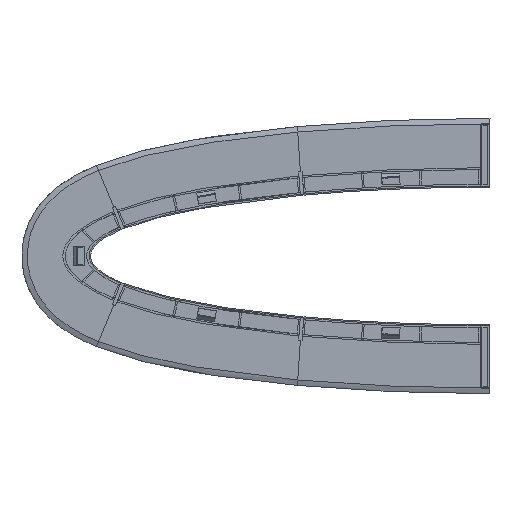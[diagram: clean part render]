
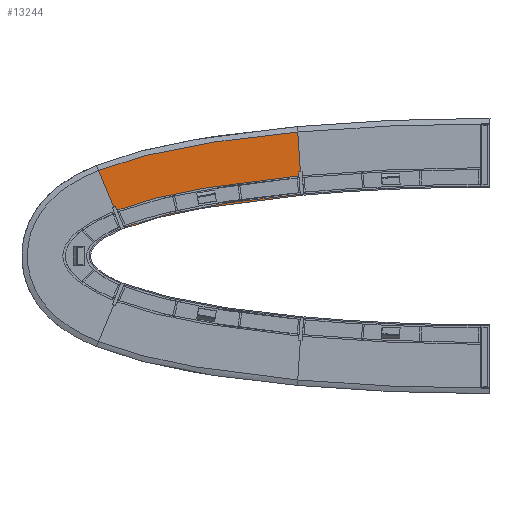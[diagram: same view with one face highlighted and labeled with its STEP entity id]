
A CAD part, front view. The second image highlights one B-rep face of the part: STEP entity #13244.
In plain terms, the highlighted planar face has unit normal (0, -1, 0).
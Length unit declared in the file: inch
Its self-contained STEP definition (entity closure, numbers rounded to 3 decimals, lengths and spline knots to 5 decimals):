
#2951=FACE_BOUND('',#4131,.T.);
#3050=ELLIPSE('',#15600,174.,30.);
#3185=B_SPLINE_CURVE_WITH_KNOTS('',3,(#28124,#28125,#28126,#28127,#28128,
#28129,#28130,#28131,#28132,#28133,#28134,#28135,#28136,#28137,#28138,#28139,
#28140,#28141,#28142,#28143,#28144,#28145,#28146,#28147,#28148,#28149,#28150,
#28151,#28152,#28153,#28154,#28155,#28156,#28157,#28158,#28159,#28160,#28161,
#28162,#28163,#28164,#28165,#28166,#28167),.UNSPECIFIED.,.F.,.F.,(4,1,1,
1,1,1,1,1,1,1,1,1,1,1,1,1,1,1,1,1,1,1,1,1,1,1,1,1,1,1,1,1,1,1,1,1,1,1,1,
1,1,4),(6.68452,6.68938,6.7022,6.70858,
6.72134,6.72772,6.74037,6.74664,6.75918,
6.76545,6.77784,6.78397,6.79622,6.80235,
6.82042,6.83235,6.8559,6.86752,6.89043,
6.90172,6.924,6.93499,6.95668,6.96737,
6.9885,6.99893,7.01952,7.0297,7.04981,
7.05975,7.07941,7.08913,7.10837,7.11789,
7.13674,7.14607,7.16456,7.17372,7.19188,
7.20088,7.21873,7.36807),.UNSPECIFIED.);
#3499=FACE_OUTER_BOUND('',#4130,.T.);
#4130=EDGE_LOOP('',(#10100,#10101,#10102,#10103));
#4131=EDGE_LOOP('',(#10104,#10105,#10106,#10107));
#4942=LINE('',#27867,#6063);
#4946=LINE('',#27875,#6067);
#4949=LINE('',#27881,#6070);
#4952=LINE('',#27886,#6073);
#4956=LINE('',#28339,#6077);
#4961=LINE('',#28348,#6082);
#6063=VECTOR('',#18346,0.3937);
#6067=VECTOR('',#18352,0.3937);
#6070=VECTOR('',#18357,0.3937);
#6073=VECTOR('',#18362,0.3937);
#6077=VECTOR('',#18368,0.3937);
#6082=VECTOR('',#18375,0.3937);
#7122=VERTEX_POINT('',#27865);
#7123=VERTEX_POINT('',#27866);
#7126=VERTEX_POINT('',#27874);
#7128=VERTEX_POINT('',#27880);
#7130=VERTEX_POINT('',#28064);
#7133=VERTEX_POINT('',#28117);
#7136=VERTEX_POINT('',#28338);
#7139=VERTEX_POINT('',#28346);
#8187=EDGE_CURVE('',#7122,#7123,#4942,.T.);
#8191=EDGE_CURVE('',#7123,#7126,#4946,.T.);
#8194=EDGE_CURVE('',#7126,#7128,#4949,.T.);
#8197=EDGE_CURVE('',#7128,#7122,#4952,.T.);
#8202=EDGE_CURVE('',#7133,#7130,#3185,.T.);
#8206=EDGE_CURVE('',#7130,#7136,#4956,.T.);
#8211=EDGE_CURVE('',#7139,#7133,#4961,.T.);
#8212=EDGE_CURVE('',#7136,#7139,#3050,.T.);
#10100=ORIENTED_EDGE('',*,*,#8202,.F.);
#10101=ORIENTED_EDGE('',*,*,#8211,.F.);
#10102=ORIENTED_EDGE('',*,*,#8212,.F.);
#10103=ORIENTED_EDGE('',*,*,#8206,.F.);
#10104=ORIENTED_EDGE('',*,*,#8194,.T.);
#10105=ORIENTED_EDGE('',*,*,#8197,.T.);
#10106=ORIENTED_EDGE('',*,*,#8187,.T.);
#10107=ORIENTED_EDGE('',*,*,#8191,.T.);
#11887=PLANE('',#15603);
#13244=ADVANCED_FACE('',(#3499,#2951),#11887,.F.);
#15600=AXIS2_PLACEMENT_3D('',#28355,#18376,#18377);
#15603=AXIS2_PLACEMENT_3D('',#28358,#18382,#18383);
#18346=DIRECTION('',(0.986,0.,0.169));
#18352=DIRECTION('',(0.169,0.,-0.986));
#18357=DIRECTION('',(-0.986,0.,-0.169));
#18362=DIRECTION('',(-0.169,0.,0.986));
#18368=DIRECTION('',(0.067,0.,-0.998));
#18375=DIRECTION('',(-0.383,0.,0.924));
#18376=DIRECTION('center_axis',(0.,-1.,0.));
#18377=DIRECTION('ref_axis',(1.,0.,0.));
#18382=DIRECTION('center_axis',(0.,1.,0.));
#18383=DIRECTION('ref_axis',(0.,0.,1.));
#27865=CARTESIAN_POINT('',(76.20027,0.,-32.5865));
#27866=CARTESIAN_POINT('',(83.96162,0.,-31.25338));
#27867=CARTESIAN_POINT('',(81.17166,0.,-31.7326));
#27874=CARTESIAN_POINT('',(84.78688,0.,-36.05802));
#27875=CARTESIAN_POINT('',(83.83222,0.,-30.50004));
#27880=CARTESIAN_POINT('',(77.02554,0.,-37.39114));
#27881=CARTESIAN_POINT('',(78.11626,0.,-37.2038));
#27886=CARTESIAN_POINT('',(75.65825,0.,-29.43084));
#28064=CARTESIAN_POINT('',(120.237,0.,-5.99025));
#28117=CARTESIAN_POINT('',(33.43915,0.,-22.71398));
#28124=CARTESIAN_POINT('Ctrl Pts',(33.43915,0.,-22.71398));
#28125=CARTESIAN_POINT('Ctrl Pts',(33.58925,0.,-22.653));
#28126=CARTESIAN_POINT('Ctrl Pts',(34.13678,0.,-22.43205));
#28127=CARTESIAN_POINT('Ctrl Pts',(34.88723,0.,-22.13651));
#28128=CARTESIAN_POINT('Ctrl Pts',(35.89247,0.,-21.7507));
#28129=CARTESIAN_POINT('Ctrl Pts',(36.70177,0.,-21.44791));
#28130=CARTESIAN_POINT('Ctrl Pts',(37.71848,0.,-21.07687));
#28131=CARTESIAN_POINT('Ctrl Pts',(38.5345,0.,-20.78629));
#28132=CARTESIAN_POINT('Ctrl Pts',(39.55806,0.,-20.43038));
#28133=CARTESIAN_POINT('Ctrl Pts',(40.38118,0.,-20.15084));
#28134=CARTESIAN_POINT('Ctrl Pts',(41.41461,0.,-19.80787));
#28135=CARTESIAN_POINT('Ctrl Pts',(42.24302,0.,-19.53912));
#28136=CARTESIAN_POINT('Ctrl Pts',(43.28067,0.,-19.20986));
#28137=CARTESIAN_POINT('Ctrl Pts',(44.11435,0.,-18.95104));
#28138=CARTESIAN_POINT('Ctrl Pts',(45.36539,0.,-18.57089));
#28139=CARTESIAN_POINT('Ctrl Pts',(46.62037,0.,-18.20012));
#28140=CARTESIAN_POINT('Ctrl Pts',(48.50849,0.,-17.66099));
#28141=CARTESIAN_POINT('Ctrl Pts',(50.19848,0.,-17.19729));
#28142=CARTESIAN_POINT('Ctrl Pts',(52.31865,0.,-16.63757));
#28143=CARTESIAN_POINT('Ctrl Pts',(54.01984,0.,-16.20501));
#28144=CARTESIAN_POINT('Ctrl Pts',(56.15241,0.,-15.68217));
#28145=CARTESIAN_POINT('Ctrl Pts',(57.86232,0.,-15.2776));
#28146=CARTESIAN_POINT('Ctrl Pts',(60.00459,0.,-14.788));
#28147=CARTESIAN_POINT('Ctrl Pts',(61.72137,0.,-14.40873));
#28148=CARTESIAN_POINT('Ctrl Pts',(63.87131,0.,-13.94926));
#28149=CARTESIAN_POINT('Ctrl Pts',(65.59358,0.,-13.59296));
#28150=CARTESIAN_POINT('Ctrl Pts',(67.74966,0.,-13.16094));
#28151=CARTESIAN_POINT('Ctrl Pts',(69.47636,0.,-12.82563));
#28152=CARTESIAN_POINT('Ctrl Pts',(71.63741,0.,-12.41874));
#28153=CARTESIAN_POINT('Ctrl Pts',(73.36771,0.,-12.10271));
#28154=CARTESIAN_POINT('Ctrl Pts',(75.53283,0.,-11.71897));
#28155=CARTESIAN_POINT('Ctrl Pts',(77.2661,0.,-11.42073));
#28156=CARTESIAN_POINT('Ctrl Pts',(79.43457,0.,-11.05841));
#28157=CARTESIAN_POINT('Ctrl Pts',(81.17031,0.,-10.77668));
#28158=CARTESIAN_POINT('Ctrl Pts',(83.34158,0.,-10.43428));
#28159=CARTESIAN_POINT('Ctrl Pts',(85.07937,0.,-10.16794));
#28160=CARTESIAN_POINT('Ctrl Pts',(87.25299,0.,-9.84414));
#28161=CARTESIAN_POINT('Ctrl Pts',(88.99252,0.,-9.59221));
#28162=CARTESIAN_POINT('Ctrl Pts',(91.16811,0.,-9.28586));
#28163=CARTESIAN_POINT('Ctrl Pts',(92.9091,0.,-9.04748));
#28164=CARTESIAN_POINT('Ctrl Pts',(95.08638,0.,-8.75758));
#28165=CARTESIAN_POINT('Ctrl Pts',(103.68375,0.,-7.6443));
#28166=CARTESIAN_POINT('Ctrl Pts',(112.27881,0.,-6.71492));
#28167=CARTESIAN_POINT('Ctrl Pts',(120.237,0.,-5.99025));
#28338=CARTESIAN_POINT('',(122.07616,0.,-33.53323));
#28339=CARTESIAN_POINT('',(120.07679,0.,-3.59085));
#28346=CARTESIAN_POINT('',(44.,0.,-48.21012));
#28348=CARTESIAN_POINT('',(44.,0.,-48.21012));
#28355=CARTESIAN_POINT('Origin',(204.,0.,-60.));
#28358=CARTESIAN_POINT('Origin',(77.29765,0.,-25.90049));
